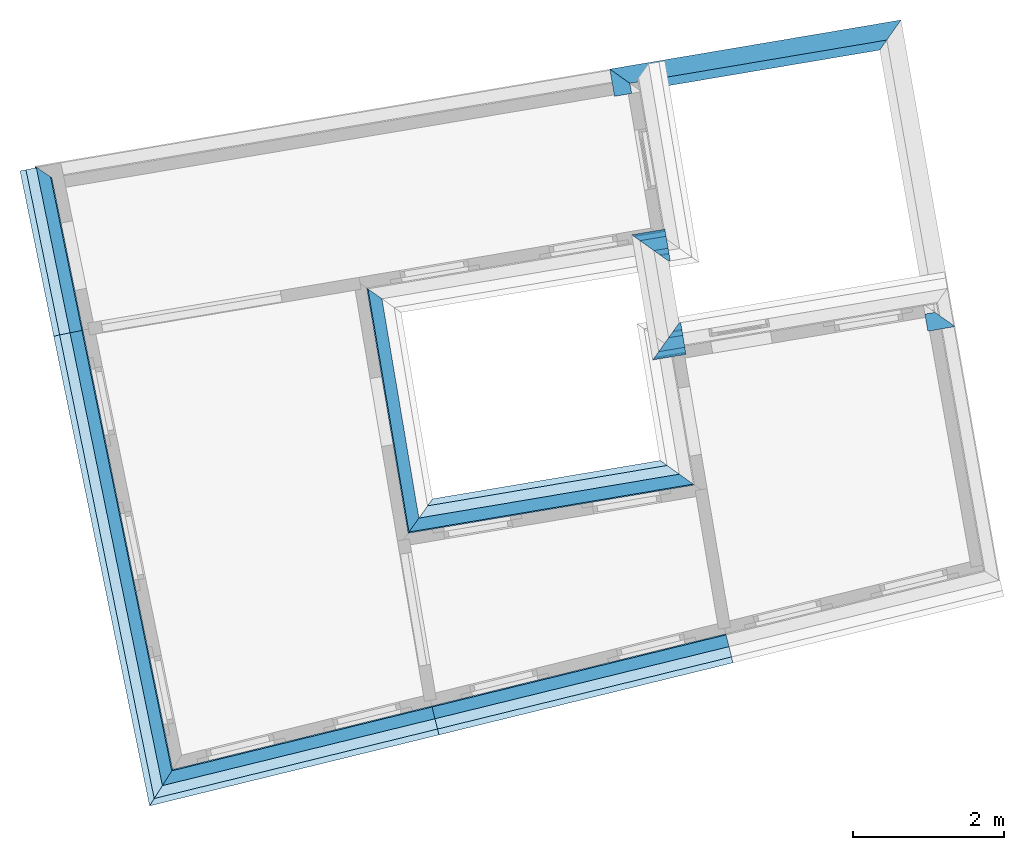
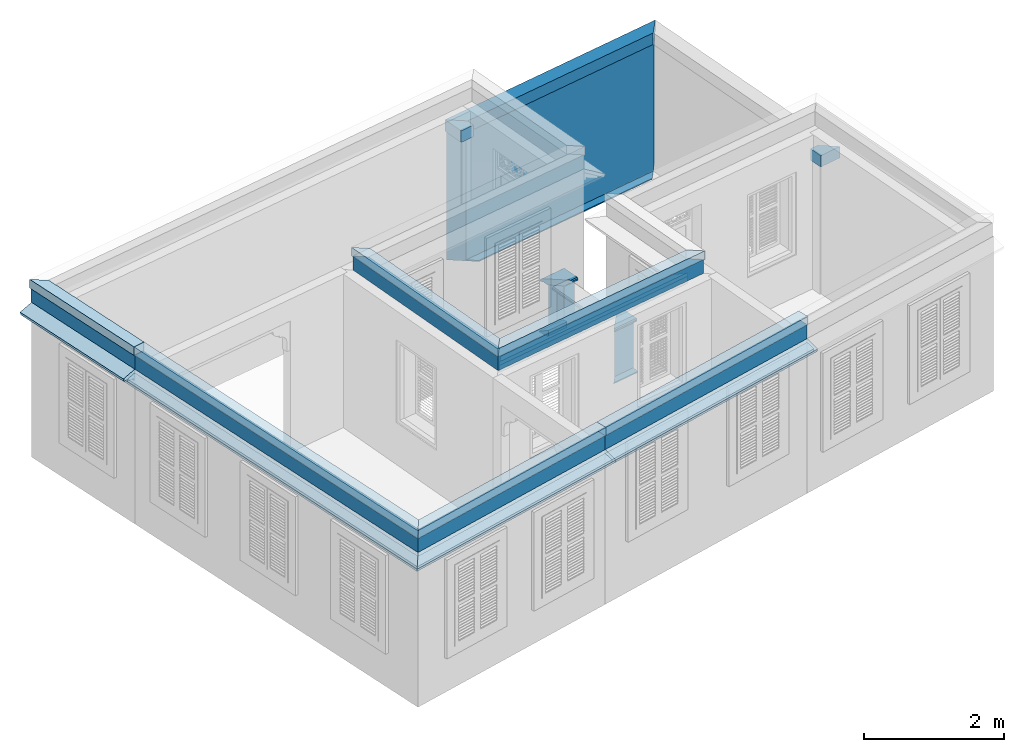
# One storey, part 10 of 12: 22 roofs, 10 walls.
"""IFC4 building model written with IfcOpenShell, lengths in metres."""

from ifc_helpers import new_model, si_unit, frame, origin_with_axes, place, context, subcontext, project, spatial, polyline, outline, extrude, clip, halfspace, material_profile, profile_set, profile_usage, type_object, element, save


model = new_model("IFC4")

# Units and contexts
model_context = context("Model", 3, world=origin_with_axes())
body_context = subcontext(model_context, "Body", "Model", "MODEL_VIEW")
ifc_project = project(units=[si_unit("PLANEANGLEUNIT", "RADIAN"), si_unit("MASSUNIT", "GRAM", prefix="KILO"), si_unit("FORCEUNIT", "NEWTON", prefix="KILO"), si_unit("LENGTHUNIT", "METRE"), si_unit("AREAUNIT", "SQUARE_METRE"), si_unit("VOLUMEUNIT", "CUBIC_METRE")], contexts=[model_context, model_context])

# Site, building, storey
site_placement = place(None, origin_with_axes())
site = spatial("IfcSite", under=ifc_project, at=site_placement, Name="Site plot-6", CompositionType="ELEMENT")
building_placement = place(None, origin_with_axes())
building = spatial("IfcBuilding", under=site, at=building_placement, Name="Building plot-6", CompositionType="ELEMENT")
storey_placement = place(None, frame((0.0, 0.0, 3.6), z_axis=(0.0, 0.0, 1.0), x_axis=(1.0, 0.0, 0.0)))
storey = spatial("IfcBuildingStorey", under=building, at=storey_placement, Name="plot-6 1", CompositionType="ELEMENT", Elevation=3.6)

# Walls
ifc_material_profile_1 = material_profile(None, outline(polyline([(0.25, 0.0), (0.25, 2.245), (0.05, 2.245), (0.05, 0.02), (-0.08, 0.02), (-0.08, 0.0), (0.25, 0.0)])))
ifc_profile_set_1 = profile_set([ifc_material_profile_1])
ifc_profile_usage_1 = profile_usage(ifc_profile_set_1)
wall_type_1 = type_object("IfcWallType", Name="parapet party_0", PredefinedType="PARAPET", material=ifc_profile_set_1)
wall_1_placement = place(storey_placement, frame((-4.32850095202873, 5.11031001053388, 0.0), z_axis=(0.986076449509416, 0.166292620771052, 0.0), x_axis=(-0.166292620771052, 0.986076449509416, 0.0)))
element("IfcWall", 1, at=wall_1_placement, inside=storey, type_object=wall_type_1, material=ifc_profile_usage_1, Name="parapet party_0", context=body_context, shape_type="Clipping", body=[
    clip(clip(extrude(outline(polyline([(0.25, 0.0), (0.25, 2.245), (0.05, 2.245), (0.05, 0.02), (-0.08, 0.02), (-0.08, 0.0), (0.25, 0.0)])), origin_with_axes(), (0.0, 0.0, 1.0), 5.37134361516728), halfspace(frame((0.0, 0.0, 4.37134361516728), z_axis=(0.704331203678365, 0.0, -0.709871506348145), x_axis=(0.0, 1.0, 0.0)), True)), halfspace(frame((0.0, 0.0, 1.0), z_axis=(-0.707106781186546, 0.0, -0.707106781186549), x_axis=(0.0, 1.0, 0.0)), False)),
])
ifc_material_profile_2 = material_profile(None, outline(polyline([(0.265, 2.245), (0.265, 2.445), (0.035, 2.445), (0.035, 2.245), (0.265, 2.245)])))
ifc_profile_set_2 = profile_set([ifc_material_profile_2])
ifc_profile_usage_2 = profile_usage(ifc_profile_set_2)
wall_type_2 = type_object("IfcWallType", Name="parapet party_1", PredefinedType="PARAPET", material=ifc_profile_set_2)
wall_2_placement = place(storey_placement, frame((1.59015010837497, 2.48325971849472, 0.0), z_axis=(-0.984743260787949, -0.174013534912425, 0.0), x_axis=(0.174013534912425, -0.984743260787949, 0.0)))
element("IfcWall", 2, at=wall_2_placement, inside=storey, type_object=wall_type_2, material=ifc_profile_usage_2, Name="parapet party_1", context=body_context, shape_type="Clipping", body=[
    clip(clip(extrude(outline(polyline([(0.265, 2.245), (0.265, 2.445), (0.035, 2.445), (0.035, 2.245), (0.265, 2.245)])), origin_with_axes(), (0.0, 0.0, 1.0), 2.1), halfspace(frame((0.0, 0.0, 1.1), z_axis=(-6.12323399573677e-17, 0.0, -1.0), x_axis=(0.0, 1.0, 0.0)), True)), halfspace(frame((0.0, 0.0, 1.0), z_axis=(-0.707106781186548, 0.0, -0.707106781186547), x_axis=(0.0, 1.0, 0.0)), False)),
])
ifc_profile_usage_3 = profile_usage(ifc_profile_set_2)
wall_3_placement = place(storey_placement, frame((-4.32850095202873, 5.11031001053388, 0.0), z_axis=(0.986076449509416, 0.166292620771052, 0.0), x_axis=(-0.166292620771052, 0.986076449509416, 0.0)))
element("IfcWall", 3, at=wall_3_placement, inside=storey, type_object=wall_type_2, material=ifc_profile_usage_3, Name="parapet party_1", context=body_context, shape_type="Clipping", body=[
    clip(clip(extrude(outline(polyline([(0.265, 2.245), (0.265, 2.445), (0.035, 2.445), (0.035, 2.245), (0.265, 2.245)])), origin_with_axes(), (0.0, 0.0, 1.0), 5.37134361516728), halfspace(frame((0.0, 0.0, 4.37134361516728), z_axis=(0.704331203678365, 0.0, -0.709871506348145), x_axis=(0.0, 1.0, 0.0)), True)), halfspace(frame((0.0, 0.0, 1.0), z_axis=(-0.707106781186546, 0.0, -0.707106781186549), x_axis=(0.0, 1.0, 0.0)), False)),
])
ifc_profile_usage_4 = profile_usage(ifc_profile_set_2)
wall_4_placement = place(storey_placement, frame((-3.15950261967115, 4.19191853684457, 0.0), z_axis=(-0.166292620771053, 0.986076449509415, 0.0), x_axis=(-0.986076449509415, -0.166292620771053, 0.0)))
element("IfcWall", 4, at=wall_4_placement, inside=storey, type_object=wall_type_2, material=ifc_profile_usage_4, Name="parapet party_1", context=body_context, shape_type="Clipping", body=[
    clip(clip(extrude(outline(polyline([(0.265, 2.245), (0.265, 2.445), (0.035, 2.445), (0.035, 2.245), (0.265, 2.245)])), origin_with_axes(), (0.0, 0.0, 1.0), 2.1), halfspace(frame((0.0, 0.0, 1.1), z_axis=(0.707106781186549, 0.0, -0.707106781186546), x_axis=(0.0, 1.0, 0.0)), True)), halfspace(frame((0.0, 0.0, 1.0), z_axis=(3.82856869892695e-16, 0.0, -1.0), x_axis=(0.0, 1.0, 0.0)), False)),
])
ifc_material_profile_3 = material_profile(None, outline(polyline([(0.25, 0.0), (0.25, 0.795), (0.09, 0.795), (0.09, 0.02), (-0.08, 0.02), (-0.08, 0.0), (0.25, 0.0)])))
ifc_profile_set_3 = profile_set([ifc_material_profile_3])
ifc_profile_usage_5 = profile_usage(ifc_profile_set_3)
wall_type_3 = type_object("IfcWallType", Name="parapet internal_0", PredefinedType="PARAPET", material=ifc_profile_set_3)
wall_5_placement = place(storey_placement, frame((-3.94838939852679, 2.85633716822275, 0.0), z_axis=(0.986076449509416, 0.166292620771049, 0.0), x_axis=(-0.166292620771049, 0.986076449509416, 0.0)))
element("IfcWall", 5, at=wall_5_placement, inside=storey, type_object=wall_type_3, material=ifc_profile_usage_5, Name="parapet internal_0", context=body_context, shape_type="Clipping", body=[
    clip(clip(extrude(outline(polyline([(0.25, 0.0), (0.25, 0.795), (0.09, 0.795), (0.09, 0.02), (-0.08, 0.02), (-0.08, 0.0), (0.25, 0.0)])), origin_with_axes(), (0.0, 0.0, 1.0), 2.1), halfspace(frame((0.0, 0.0, 1.1), z_axis=(-6.12323399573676e-17, 0.0, -1.0), x_axis=(0.0, 1.0, 0.0)), True)), halfspace(frame((0.0, 0.0, 1.0), z_axis=(-0.707106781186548, 0.0, -0.707106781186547), x_axis=(0.0, 1.0, 0.0)), False)),
])
ifc_profile_usage_6 = profile_usage(ifc_profile_set_3)
wall_6_placement = place(storey_placement, frame((-1.71354189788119, 2.2325542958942, 0.0), z_axis=(-0.986076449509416, -0.166292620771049, 0.0), x_axis=(0.166292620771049, -0.986076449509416, 0.0)))
element("IfcWall", 6, at=wall_6_placement, inside=storey, type_object=wall_type_3, material=ifc_profile_usage_6, Name="parapet internal_0", context=body_context, shape_type="Clipping", body=[
    clip(clip(extrude(outline(polyline([(0.25, 0.0), (0.25, 0.795), (0.09, 0.795), (0.09, 0.02), (-0.08, 0.02), (-0.08, 0.0), (0.25, 0.0)])), origin_with_axes(), (0.0, 0.0, 1.0), 2.1), halfspace(frame((0.0, 0.0, 1.1), z_axis=(0.707106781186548, 0.0, -0.707106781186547), x_axis=(0.0, 1.0, 0.0)), True)), halfspace(frame((0.0, 0.0, 1.0), z_axis=(-6.12323399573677e-17, 0.0, -1.0), x_axis=(0.0, 1.0, 0.0)), False)),
])
ifc_material_profile_4 = material_profile(None, outline(polyline([(0.265, 0.795), (0.268, 0.807), (0.274, 0.816), (0.283, 0.822), (0.295, 0.825), (0.295, 0.84), (0.305, 0.84), (0.317, 0.842), (0.326, 0.849), (0.333, 0.858), (0.335, 0.87), (0.333, 0.882), (0.326, 0.891), (0.317, 0.898), (0.305, 0.9), (0.035, 0.9), (0.023, 0.898), (0.014, 0.891), (0.007, 0.882), (0.005, 0.87), (0.007, 0.858), (0.014, 0.849), (0.023, 0.842), (0.035, 0.84), (0.045, 0.84), (0.045, 0.825), (0.057, 0.822), (0.066, 0.816), (0.072, 0.807), (0.075, 0.795), (0.265, 0.795)])))
ifc_profile_set_4 = profile_set([ifc_material_profile_4])
ifc_profile_usage_7 = profile_usage(ifc_profile_set_4)
wall_type_4 = type_object("IfcWallType", Name="parapet internal_1", PredefinedType="PARAPET", material=ifc_profile_set_4)
wall_7_placement = place(storey_placement, frame((-3.94838939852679, 2.85633716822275, 0.0), z_axis=(0.986076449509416, 0.166292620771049, 0.0), x_axis=(-0.166292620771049, 0.986076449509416, 0.0)))
element("IfcWall", 7, at=wall_7_placement, inside=storey, type_object=wall_type_4, material=ifc_profile_usage_7, Name="parapet internal_1", context=body_context, shape_type="Clipping", body=[
    clip(clip(extrude(outline(polyline([(0.265, 0.795), (0.268, 0.807), (0.274, 0.816), (0.283, 0.822), (0.295, 0.825), (0.295, 0.84), (0.305, 0.84), (0.317, 0.842), (0.326, 0.849), (0.333, 0.858), (0.335, 0.87), (0.333, 0.882), (0.326, 0.891), (0.317, 0.898), (0.305, 0.9), (0.035, 0.9), (0.023, 0.898), (0.014, 0.891), (0.007, 0.882), (0.005, 0.87), (0.007, 0.858), (0.014, 0.849), (0.023, 0.842), (0.035, 0.84), (0.045, 0.84), (0.045, 0.825), (0.057, 0.822), (0.066, 0.816), (0.072, 0.807), (0.075, 0.795), (0.265, 0.795)])), origin_with_axes(), (0.0, 0.0, 1.0), 2.1), halfspace(frame((0.0, 0.0, 1.1), z_axis=(-6.12323399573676e-17, 0.0, -1.0), x_axis=(0.0, 1.0, 0.0)), True)), halfspace(frame((0.0, 0.0, 1.0), z_axis=(-0.707106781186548, 0.0, -0.707106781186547), x_axis=(0.0, 1.0, 0.0)), False)),
])
ifc_profile_usage_8 = profile_usage(ifc_profile_set_4)
wall_8_placement = place(storey_placement, frame((-1.71354189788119, 2.2325542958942, 0.0), z_axis=(-0.986076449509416, -0.166292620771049, 0.0), x_axis=(0.166292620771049, -0.986076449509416, 0.0)))
element("IfcWall", 8, at=wall_8_placement, inside=storey, type_object=wall_type_4, material=ifc_profile_usage_8, Name="parapet internal_1", context=body_context, shape_type="Clipping", body=[
    clip(clip(extrude(outline(polyline([(0.265, 0.795), (0.268, 0.807), (0.274, 0.816), (0.283, 0.822), (0.295, 0.825), (0.295, 0.84), (0.305, 0.84), (0.317, 0.842), (0.326, 0.849), (0.333, 0.858), (0.335, 0.87), (0.333, 0.882), (0.326, 0.891), (0.317, 0.898), (0.305, 0.9), (0.035, 0.9), (0.023, 0.898), (0.014, 0.891), (0.007, 0.882), (0.005, 0.87), (0.007, 0.858), (0.014, 0.849), (0.023, 0.842), (0.035, 0.84), (0.045, 0.84), (0.045, 0.825), (0.057, 0.822), (0.066, 0.816), (0.072, 0.807), (0.075, 0.795), (0.265, 0.795)])), origin_with_axes(), (0.0, 0.0, 1.0), 2.1), halfspace(frame((0.0, 0.0, 1.1), z_axis=(0.707106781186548, 0.0, -0.707106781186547), x_axis=(0.0, 1.0, 0.0)), True)), halfspace(frame((0.0, 0.0, 1.0), z_axis=(-6.12323399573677e-17, 0.0, -1.0), x_axis=(0.0, 1.0, 0.0)), False)),
])
ifc_material_profile_5 = material_profile(None, outline(polyline([(0.25, -0.1), (0.265, -0.1), (0.265, -0.085), (0.278, -0.084), (0.289, -0.081), (0.301, -0.074), (0.309, -0.065), (0.315, -0.055), (0.324, -0.044), (0.334, -0.038), (0.345, -0.035), (0.345, -0.015), (0.25, 0.0), (0.25, -0.1)])))
ifc_profile_set_5 = profile_set([ifc_material_profile_5])
ifc_profile_usage_9 = profile_usage(ifc_profile_set_5)
wall_type_5 = type_object("IfcWallType", Name="parapet internal_2", PredefinedType="PARAPET", material=ifc_profile_set_5)
wall_9_placement = place(storey_placement, frame((-3.94838939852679, 2.85633716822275, 0.0), z_axis=(0.986076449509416, 0.166292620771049, 0.0), x_axis=(-0.166292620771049, 0.986076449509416, 0.0)))
element("IfcWall", 9, at=wall_9_placement, inside=storey, type_object=wall_type_5, material=ifc_profile_usage_9, Name="parapet internal_2", context=body_context, shape_type="Clipping", body=[
    clip(clip(extrude(outline(polyline([(0.25, -0.1), (0.265, -0.1), (0.265, -0.085), (0.278, -0.084), (0.289, -0.081), (0.301, -0.074), (0.309, -0.065), (0.315, -0.055), (0.324, -0.044), (0.334, -0.038), (0.345, -0.035), (0.345, -0.015), (0.25, 0.0), (0.25, -0.1)])), origin_with_axes(), (0.0, 0.0, 1.0), 2.1), halfspace(frame((0.0, 0.0, 1.1), z_axis=(-6.12323399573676e-17, 0.0, -1.0), x_axis=(0.0, 1.0, 0.0)), True)), halfspace(frame((0.0, 0.0, 1.0), z_axis=(-0.707106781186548, 0.0, -0.707106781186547), x_axis=(0.0, 1.0, 0.0)), False)),
])
ifc_profile_usage_10 = profile_usage(ifc_profile_set_5)
wall_10_placement = place(storey_placement, frame((-1.71354189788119, 2.2325542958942, 0.0), z_axis=(-0.986076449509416, -0.166292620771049, 0.0), x_axis=(0.166292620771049, -0.986076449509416, 0.0)))
element("IfcWall", 10, at=wall_10_placement, inside=storey, type_object=wall_type_5, material=ifc_profile_usage_10, Name="parapet internal_2", context=body_context, shape_type="Clipping", body=[
    clip(clip(extrude(outline(polyline([(0.25, -0.1), (0.265, -0.1), (0.265, -0.085), (0.278, -0.084), (0.289, -0.081), (0.301, -0.074), (0.309, -0.065), (0.315, -0.055), (0.324, -0.044), (0.334, -0.038), (0.345, -0.035), (0.345, -0.015), (0.25, 0.0), (0.25, -0.1)])), origin_with_axes(), (0.0, 0.0, 1.0), 2.1), halfspace(frame((0.0, 0.0, 1.1), z_axis=(0.707106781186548, 0.0, -0.707106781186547), x_axis=(0.0, 1.0, 0.0)), True)), halfspace(frame((0.0, 0.0, 1.0), z_axis=(-6.12323399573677e-17, 0.0, -1.0), x_axis=(0.0, 1.0, 0.0)), False)),
])

# Roofs
ifc_material_profile_6 = material_profile(None, outline(polyline([(0.25, 0.0), (0.25, 0.245), (0.09, 0.245), (0.09, 0.0), (0.25, 0.0)])))
ifc_profile_set_6 = profile_set([ifc_material_profile_6])
ifc_profile_usage_11 = profile_usage(ifc_profile_set_6)
roof_type_1 = type_object("IfcRoofType", Name="roofline_0", PredefinedType="FREEFORM", material=ifc_profile_set_6)
roof_1_placement = place(storey_placement, frame((-7.36088413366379, -0.890493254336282, 2.7), z_axis=(0.986076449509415, 0.166292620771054, 0.0), x_axis=(-0.166292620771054, 0.986076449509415, 0.0)))
element("IfcRoof", 11, at=roof_1_placement, inside=storey, type_object=roof_type_1, material=ifc_profile_usage_11, Name="roofline_0", context=body_context, shape_type="Clipping", body=[
    clip(clip(extrude(outline(polyline([(0.25, 0.0), (0.25, 0.245), (0.09, 0.245), (0.09, 0.0), (0.25, 0.0)])), origin_with_axes(), (0.0, 0.0, 1.0), 5.98805094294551), halfspace(frame((0.0, 0.0, 4.98805094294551), z_axis=(-0.707106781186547, 0.0, -0.707106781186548), x_axis=(0.0, 1.0, 0.0)), True)), halfspace(frame((0.0, 0.0, 1.0), z_axis=(0.707106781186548, 0.0, -0.707106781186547), x_axis=(0.0, 1.0, 0.0)), False)),
])
ifc_profile_usage_12 = profile_usage(ifc_profile_set_6)
roof_2_placement = place(storey_placement, frame((-7.11267939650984, 3.65120649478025, 2.7), z_axis=(0.166292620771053, -0.986076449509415, 0.0), x_axis=(0.986076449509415, 0.166292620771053, 0.0)))
element("IfcRoof", 12, at=roof_2_placement, inside=storey, type_object=roof_type_1, material=ifc_profile_usage_12, Name="roofline_0", context=body_context, shape_type="Clipping", body=[
    clip(clip(extrude(outline(polyline([(0.25, 0.0), (0.25, 0.245), (0.09, 0.245), (0.09, 0.0), (0.25, 0.0)])), origin_with_axes(), (0.0, 0.0, 1.0), 5.43718854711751), halfspace(frame((0.0, 0.0, 4.43718854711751), z_axis=(-0.707106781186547, 0.0, -0.707106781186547), x_axis=(0.0, 1.0, 0.0)), True)), halfspace(frame((0.0, 0.0, 1.0), z_axis=(0.707106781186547, 0.0, -0.707106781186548), x_axis=(0.0, 1.0, 0.0)), False)),
])
ifc_profile_usage_13 = profile_usage(ifc_profile_set_6)
roof_3_placement = place(storey_placement, frame((-10.3327694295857, 1.08052207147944, 2.7), z_axis=(-0.199943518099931, 0.979807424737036, 0.0), x_axis=(-0.979807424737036, -0.199943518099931, 0.0)))
element("IfcRoof", 13, at=roof_3_placement, inside=storey, type_object=roof_type_1, material=ifc_profile_usage_13, Name="roofline_0", context=body_context, shape_type="Clipping", body=[
    clip(clip(extrude(outline(polyline([(0.25, 0.0), (0.25, 0.245), (0.09, 0.245), (0.09, 0.0), (0.25, 0.0)])), origin_with_axes(), (0.0, 0.0, 1.0), 3.97695746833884), halfspace(frame((0.0, 0.0, 2.97695746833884), z_axis=(0.719105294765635, 0.0, -0.694901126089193), x_axis=(0.0, 1.0, 0.0)), True)), halfspace(frame((0.0, 0.0, 1.0), z_axis=(3.82856869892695e-16, 0.0, -1.0), x_axis=(0.0, 1.0, 0.0)), False)),
])
ifc_profile_usage_14 = profile_usage(ifc_profile_set_6)
roof_4_placement = place(storey_placement, frame((-9.16446570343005, -4.64465809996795, 2.7), z_axis=(-0.19994351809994, 0.979807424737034, 0.0), x_axis=(-0.979807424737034, -0.19994351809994, 0.0)))
element("IfcRoof", 14, at=roof_4_placement, inside=storey, type_object=roof_type_1, material=ifc_profile_usage_14, Name="roofline_0", context=body_context, shape_type="Clipping", body=[
    clip(clip(extrude(outline(polyline([(0.25, 0.0), (0.25, 0.245), (0.09, 0.245), (0.09, 0.0), (0.25, 0.0)])), origin_with_axes(), (0.0, 0.0, 1.0), 7.84316879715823), halfspace(frame((0.0, 0.0, 6.84316879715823), z_axis=(9.04259646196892e-15, 0.0, -1.0), x_axis=(0.0, 1.0, 0.0)), True)), halfspace(frame((0.0, 0.0, 1.0), z_axis=(-0.720836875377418, 0.0, -0.693104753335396), x_axis=(0.0, 1.0, 0.0)), False)),
])
ifc_profile_usage_15 = profile_usage(ifc_profile_set_6)
roof_5_placement = place(storey_placement, frame((-5.04612387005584, -2.60570499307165, 2.7), z_axis=(-0.971213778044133, -0.238209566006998, 0.0), x_axis=(0.238209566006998, -0.971213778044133, 0.0)))
element("IfcRoof", 15, at=roof_5_placement, inside=storey, type_object=roof_type_1, material=ifc_profile_usage_15, Name="roofline_0", context=body_context, shape_type="Clipping", body=[
    clip(clip(extrude(outline(polyline([(0.25, 0.0), (0.25, 0.245), (0.09, 0.245), (0.09, 0.0), (0.25, 0.0)])), origin_with_axes(), (0.0, 0.0, 1.0), 5.44627686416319), halfspace(frame((0.0, 0.0, 4.44627686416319), z_axis=(0.720836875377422, 0.0, -0.693104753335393), x_axis=(0.0, 1.0, 0.0)), True)), halfspace(frame((0.0, 0.0, 1.0), z_axis=(3.82856869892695e-16, 0.0, -1.0), x_axis=(0.0, 1.0, 0.0)), False)),
])
ifc_profile_usage_16 = profile_usage(ifc_profile_set_6)
roof_6_placement = place(storey_placement, frame((-1.16240149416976, -1.65314455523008, 2.7), z_axis=(-0.971213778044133, -0.238209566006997, 0.0), x_axis=(0.238209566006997, -0.971213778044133, 0.0)))
element("IfcRoof", 16, at=roof_6_placement, inside=storey, type_object=roof_type_1, material=ifc_profile_usage_16, Name="roofline_0", context=body_context, shape_type="Clipping", body=[
    clip(clip(extrude(outline(polyline([(0.25, 0.0), (0.25, 0.245), (0.09, 0.245), (0.09, 0.0), (0.25, 0.0)])), origin_with_axes(), (0.0, 0.0, 1.0), 5.99883369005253), halfspace(frame((0.0, 0.0, 4.99883369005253), z_axis=(-5.0532154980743e-16, 0.0, -1.0), x_axis=(0.0, 1.0, 0.0)), True)), halfspace(frame((0.0, 0.0, 1.0), z_axis=(1.60812264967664e-16, 0.0, -1.0), x_axis=(0.0, 1.0, 0.0)), False)),
])
ifc_material_profile_7 = material_profile(None, outline(polyline([(0.265, 0.245), (0.265, 0.395), (0.075, 0.395), (0.075, 0.245), (0.265, 0.245)])))
ifc_profile_set_7 = profile_set([ifc_material_profile_7])
ifc_profile_usage_17 = profile_usage(ifc_profile_set_7)
roof_type_2 = type_object("IfcRoofType", Name="roofline_1", PredefinedType="FREEFORM", material=ifc_profile_set_7)
roof_7_placement = place(storey_placement, frame((-7.36088413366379, -0.890493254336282, 2.7), z_axis=(0.986076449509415, 0.166292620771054, 0.0), x_axis=(-0.166292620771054, 0.986076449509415, 0.0)))
element("IfcRoof", 17, at=roof_7_placement, inside=storey, type_object=roof_type_2, material=ifc_profile_usage_17, Name="roofline_1", context=body_context, shape_type="Clipping", body=[
    clip(clip(extrude(outline(polyline([(0.265, 0.245), (0.265, 0.395), (0.075, 0.395), (0.075, 0.245), (0.265, 0.245)])), origin_with_axes(), (0.0, 0.0, 1.0), 5.98805094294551), halfspace(frame((0.0, 0.0, 4.98805094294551), z_axis=(-0.707106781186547, 0.0, -0.707106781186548), x_axis=(0.0, 1.0, 0.0)), True)), halfspace(frame((0.0, 0.0, 1.0), z_axis=(0.707106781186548, 0.0, -0.707106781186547), x_axis=(0.0, 1.0, 0.0)), False)),
])
ifc_profile_usage_18 = profile_usage(ifc_profile_set_7)
roof_8_placement = place(storey_placement, frame((-7.11267939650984, 3.65120649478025, 2.7), z_axis=(0.166292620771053, -0.986076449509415, 0.0), x_axis=(0.986076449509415, 0.166292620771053, 0.0)))
element("IfcRoof", 18, at=roof_8_placement, inside=storey, type_object=roof_type_2, material=ifc_profile_usage_18, Name="roofline_1", context=body_context, shape_type="Clipping", body=[
    clip(clip(extrude(outline(polyline([(0.265, 0.245), (0.265, 0.395), (0.075, 0.395), (0.075, 0.245), (0.265, 0.245)])), origin_with_axes(), (0.0, 0.0, 1.0), 5.43718854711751), halfspace(frame((0.0, 0.0, 4.43718854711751), z_axis=(-0.707106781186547, 0.0, -0.707106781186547), x_axis=(0.0, 1.0, 0.0)), True)), halfspace(frame((0.0, 0.0, 1.0), z_axis=(0.707106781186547, 0.0, -0.707106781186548), x_axis=(0.0, 1.0, 0.0)), False)),
])
ifc_profile_usage_19 = profile_usage(ifc_profile_set_7)
roof_9_placement = place(storey_placement, frame((-10.3327694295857, 1.08052207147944, 2.7), z_axis=(-0.199943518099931, 0.979807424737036, 0.0), x_axis=(-0.979807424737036, -0.199943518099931, 0.0)))
element("IfcRoof", 19, at=roof_9_placement, inside=storey, type_object=roof_type_2, material=ifc_profile_usage_19, Name="roofline_1", context=body_context, shape_type="Clipping", body=[
    clip(clip(extrude(outline(polyline([(0.265, 0.245), (0.265, 0.395), (0.075, 0.395), (0.075, 0.245), (0.265, 0.245)])), origin_with_axes(), (0.0, 0.0, 1.0), 3.97695746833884), halfspace(frame((0.0, 0.0, 2.97695746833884), z_axis=(0.719105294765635, 0.0, -0.694901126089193), x_axis=(0.0, 1.0, 0.0)), True)), halfspace(frame((0.0, 0.0, 1.0), z_axis=(3.82856869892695e-16, 0.0, -1.0), x_axis=(0.0, 1.0, 0.0)), False)),
])
ifc_profile_usage_20 = profile_usage(ifc_profile_set_7)
roof_10_placement = place(storey_placement, frame((-9.16446570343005, -4.64465809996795, 2.7), z_axis=(-0.19994351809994, 0.979807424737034, 0.0), x_axis=(-0.979807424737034, -0.19994351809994, 0.0)))
element("IfcRoof", 20, at=roof_10_placement, inside=storey, type_object=roof_type_2, material=ifc_profile_usage_20, Name="roofline_1", context=body_context, shape_type="Clipping", body=[
    clip(clip(extrude(outline(polyline([(0.265, 0.245), (0.265, 0.395), (0.075, 0.395), (0.075, 0.245), (0.265, 0.245)])), origin_with_axes(), (0.0, 0.0, 1.0), 7.84316879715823), halfspace(frame((0.0, 0.0, 6.84316879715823), z_axis=(9.04259646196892e-15, 0.0, -1.0), x_axis=(0.0, 1.0, 0.0)), True)), halfspace(frame((0.0, 0.0, 1.0), z_axis=(-0.720836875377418, 0.0, -0.693104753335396), x_axis=(0.0, 1.0, 0.0)), False)),
])
ifc_profile_usage_21 = profile_usage(ifc_profile_set_7)
roof_11_placement = place(storey_placement, frame((-5.04612387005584, -2.60570499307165, 2.7), z_axis=(-0.971213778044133, -0.238209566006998, 0.0), x_axis=(0.238209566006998, -0.971213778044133, 0.0)))
element("IfcRoof", 21, at=roof_11_placement, inside=storey, type_object=roof_type_2, material=ifc_profile_usage_21, Name="roofline_1", context=body_context, shape_type="Clipping", body=[
    clip(clip(extrude(outline(polyline([(0.265, 0.245), (0.265, 0.395), (0.075, 0.395), (0.075, 0.245), (0.265, 0.245)])), origin_with_axes(), (0.0, 0.0, 1.0), 5.44627686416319), halfspace(frame((0.0, 0.0, 4.44627686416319), z_axis=(0.720836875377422, 0.0, -0.693104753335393), x_axis=(0.0, 1.0, 0.0)), True)), halfspace(frame((0.0, 0.0, 1.0), z_axis=(3.82856869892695e-16, 0.0, -1.0), x_axis=(0.0, 1.0, 0.0)), False)),
])
ifc_profile_usage_22 = profile_usage(ifc_profile_set_7)
roof_12_placement = place(storey_placement, frame((-1.16240149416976, -1.65314455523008, 2.7), z_axis=(-0.971213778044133, -0.238209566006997, 0.0), x_axis=(0.238209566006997, -0.971213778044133, 0.0)))
element("IfcRoof", 22, at=roof_12_placement, inside=storey, type_object=roof_type_2, material=ifc_profile_usage_22, Name="roofline_1", context=body_context, shape_type="Clipping", body=[
    clip(clip(extrude(outline(polyline([(0.265, 0.245), (0.265, 0.395), (0.075, 0.395), (0.075, 0.245), (0.265, 0.245)])), origin_with_axes(), (0.0, 0.0, 1.0), 5.99883369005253), halfspace(frame((0.0, 0.0, 4.99883369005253), z_axis=(-5.0532154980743e-16, 0.0, -1.0), x_axis=(0.0, 1.0, 0.0)), True)), halfspace(frame((0.0, 0.0, 1.0), z_axis=(1.60812264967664e-16, 0.0, -1.0), x_axis=(0.0, 1.0, 0.0)), False)),
])
ifc_material_profile_8 = material_profile(None, outline(polyline([(0.25, -0.19), (0.275, -0.19), (0.275, -0.15), (0.39, -0.15), (0.39, -0.107509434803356), (0.25, -0.0629639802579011), (0.25, -0.19)])))
ifc_profile_set_8 = profile_set([ifc_material_profile_8])
ifc_profile_usage_23 = profile_usage(ifc_profile_set_8)
roof_type_3 = type_object("IfcRoofType", Name="eaves_0", PredefinedType="FREEFORM", material=ifc_profile_set_8)
roof_13_placement = place(storey_placement, frame((-7.36088413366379, -0.890493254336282, 2.7), z_axis=(0.986076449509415, 0.166292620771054, 0.0), x_axis=(-0.166292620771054, 0.986076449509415, 0.0)))
element("IfcRoof", 23, at=roof_13_placement, inside=storey, type_object=roof_type_3, material=ifc_profile_usage_23, Name="eaves_0", context=body_context, shape_type="Clipping", body=[
    clip(clip(extrude(outline(polyline([(0.25, -0.19), (0.275, -0.19), (0.275, -0.15), (0.39, -0.15), (0.39, -0.107509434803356), (0.25, -0.0629639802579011), (0.25, -0.19)])), origin_with_axes(), (0.0, 0.0, 1.0), 5.98805094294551), halfspace(frame((0.0, 0.0, 4.98805094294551), z_axis=(-0.707106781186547, 0.0, -0.707106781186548), x_axis=(0.0, 1.0, 0.0)), True)), halfspace(frame((0.0, 0.0, 1.0), z_axis=(0.707106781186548, 0.0, -0.707106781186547), x_axis=(0.0, 1.0, 0.0)), False)),
])
ifc_material_profile_9 = material_profile(None, outline(polyline([(0.25, -0.0629639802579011), (0.451807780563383, -0.127175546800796), (0.47, -0.07), (0.25, 0.0), (0.25, -0.0629639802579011)])))
ifc_profile_set_9 = profile_set([ifc_material_profile_9])
ifc_profile_usage_24 = profile_usage(ifc_profile_set_9)
roof_type_4 = type_object("IfcRoofType", Name="eaves_1", PredefinedType="FREEFORM", material=ifc_profile_set_9)
roof_14_placement = place(storey_placement, frame((-7.36088413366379, -0.890493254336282, 2.7), z_axis=(0.986076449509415, 0.166292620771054, 0.0), x_axis=(-0.166292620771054, 0.986076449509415, 0.0)))
element("IfcRoof", 24, at=roof_14_placement, inside=storey, type_object=roof_type_4, material=ifc_profile_usage_24, Name="eaves_1", context=body_context, shape_type="Clipping", body=[
    clip(clip(extrude(outline(polyline([(0.25, -0.0629639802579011), (0.451807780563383, -0.127175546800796), (0.47, -0.07), (0.25, 0.0), (0.25, -0.0629639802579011)])), origin_with_axes(), (0.0, 0.0, 1.0), 5.98805094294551), halfspace(frame((0.0, 0.0, 4.98805094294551), z_axis=(-0.707106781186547, 0.0, -0.707106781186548), x_axis=(0.0, 1.0, 0.0)), True)), halfspace(frame((0.0, 0.0, 1.0), z_axis=(0.707106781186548, 0.0, -0.707106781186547), x_axis=(0.0, 1.0, 0.0)), False)),
])
ifc_material_profile_10 = material_profile(None, outline(polyline([(0.25, -0.19), (0.275, -0.19), (0.275, -0.15), (0.39, -0.15), (0.39, -0.107509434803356), (0.25, -0.0629639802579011), (0.25, -0.19)])))
ifc_profile_set_10 = profile_set([ifc_material_profile_10])
ifc_profile_usage_25 = profile_usage(ifc_profile_set_10)
roof_type_5 = type_object("IfcRoofType", Name="eaves_0", PredefinedType="FREEFORM", material=ifc_profile_set_10)
roof_15_placement = place(storey_placement, frame((-10.3327694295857, 1.08052207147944, 2.7), z_axis=(-0.199943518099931, 0.979807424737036, 0.0), x_axis=(-0.979807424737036, -0.199943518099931, 0.0)))
element("IfcRoof", 25, at=roof_15_placement, inside=storey, type_object=roof_type_5, material=ifc_profile_usage_25, Name="eaves_0", context=body_context, shape_type="Clipping", body=[
    clip(clip(extrude(outline(polyline([(0.25, -0.19), (0.275, -0.19), (0.275, -0.15), (0.39, -0.15), (0.39, -0.107509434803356), (0.25, -0.0629639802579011), (0.25, -0.19)])), origin_with_axes(), (0.0, 0.0, 1.0), 4.22695746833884), halfspace(frame((0.0, 0.0, 3.22695746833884), z_axis=(-6.12323399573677e-17, 0.0, -1.0), x_axis=(0.0, 1.0, 0.0)), True)), halfspace(frame((0.0, 0.0, 1.0), z_axis=(-6.12323399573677e-17, 0.0, -1.0), x_axis=(0.0, 1.0, 0.0)), False)),
])
ifc_profile_usage_26 = profile_usage(ifc_profile_set_10)
roof_16_placement = place(storey_placement, frame((-9.16446570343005, -4.64465809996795, 2.7), z_axis=(-0.19994351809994, 0.979807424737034, 0.0), x_axis=(-0.979807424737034, -0.19994351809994, 0.0)))
element("IfcRoof", 26, at=roof_16_placement, inside=storey, type_object=roof_type_5, material=ifc_profile_usage_26, Name="eaves_0", context=body_context, shape_type="Clipping", body=[
    clip(clip(extrude(outline(polyline([(0.25, -0.19), (0.275, -0.19), (0.275, -0.15), (0.39, -0.15), (0.39, -0.107509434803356), (0.25, -0.0629639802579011), (0.25, -0.19)])), origin_with_axes(), (0.0, 0.0, 1.0), 7.84316879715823), halfspace(frame((0.0, 0.0, 6.84316879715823), z_axis=(9.04259646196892e-15, 0.0, -1.0), x_axis=(0.0, 1.0, 0.0)), True)), halfspace(frame((0.0, 0.0, 1.0), z_axis=(-0.720836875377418, 0.0, -0.693104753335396), x_axis=(0.0, 1.0, 0.0)), False)),
])
ifc_profile_usage_27 = profile_usage(ifc_profile_set_10)
roof_17_placement = place(storey_placement, frame((-5.04612387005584, -2.60570499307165, 2.7), z_axis=(-0.971213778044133, -0.238209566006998, 0.0), x_axis=(0.238209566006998, -0.971213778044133, 0.0)))
element("IfcRoof", 27, at=roof_17_placement, inside=storey, type_object=roof_type_5, material=ifc_profile_usage_27, Name="eaves_0", context=body_context, shape_type="Clipping", body=[
    clip(clip(extrude(outline(polyline([(0.25, -0.19), (0.275, -0.19), (0.275, -0.15), (0.39, -0.15), (0.39, -0.107509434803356), (0.25, -0.0629639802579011), (0.25, -0.19)])), origin_with_axes(), (0.0, 0.0, 1.0), 5.44627686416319), halfspace(frame((0.0, 0.0, 4.44627686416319), z_axis=(0.720836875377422, 0.0, -0.693104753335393), x_axis=(0.0, 1.0, 0.0)), True)), halfspace(frame((0.0, 0.0, 1.0), z_axis=(3.82856869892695e-16, 0.0, -1.0), x_axis=(0.0, 1.0, 0.0)), False)),
])
ifc_profile_usage_28 = profile_usage(ifc_profile_set_10)
roof_18_placement = place(storey_placement, frame((-1.16240149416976, -1.65314455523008, 2.7), z_axis=(-0.971213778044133, -0.238209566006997, 0.0), x_axis=(0.238209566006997, -0.971213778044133, 0.0)))
element("IfcRoof", 28, at=roof_18_placement, inside=storey, type_object=roof_type_5, material=ifc_profile_usage_28, Name="eaves_0", context=body_context, shape_type="Clipping", body=[
    clip(clip(extrude(outline(polyline([(0.25, -0.19), (0.275, -0.19), (0.275, -0.15), (0.39, -0.15), (0.39, -0.107509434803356), (0.25, -0.0629639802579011), (0.25, -0.19)])), origin_with_axes(), (0.0, 0.0, 1.0), 5.99883369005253), halfspace(frame((0.0, 0.0, 4.99883369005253), z_axis=(-5.0532154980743e-16, 0.0, -1.0), x_axis=(0.0, 1.0, 0.0)), True)), halfspace(frame((0.0, 0.0, 1.0), z_axis=(1.60812264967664e-16, 0.0, -1.0), x_axis=(0.0, 1.0, 0.0)), False)),
])
ifc_material_profile_11 = material_profile(None, outline(polyline([(0.25, -0.0629639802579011), (0.451807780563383, -0.127175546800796), (0.47, -0.07), (0.25, 0.0), (0.25, -0.0629639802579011)])))
ifc_profile_set_11 = profile_set([ifc_material_profile_11])
ifc_profile_usage_29 = profile_usage(ifc_profile_set_11)
roof_type_6 = type_object("IfcRoofType", Name="eaves_1", PredefinedType="FREEFORM", material=ifc_profile_set_11)
roof_19_placement = place(storey_placement, frame((-10.3327694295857, 1.08052207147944, 2.7), z_axis=(-0.199943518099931, 0.979807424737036, 0.0), x_axis=(-0.979807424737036, -0.199943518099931, 0.0)))
element("IfcRoof", 29, at=roof_19_placement, inside=storey, type_object=roof_type_6, material=ifc_profile_usage_29, Name="eaves_1", context=body_context, shape_type="Clipping", body=[
    clip(clip(extrude(outline(polyline([(0.25, -0.0629639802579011), (0.451807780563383, -0.127175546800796), (0.47, -0.07), (0.25, 0.0), (0.25, -0.0629639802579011)])), origin_with_axes(), (0.0, 0.0, 1.0), 4.22695746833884), halfspace(frame((0.0, 0.0, 3.22695746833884), z_axis=(-6.12323399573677e-17, 0.0, -1.0), x_axis=(0.0, 1.0, 0.0)), True)), halfspace(frame((0.0, 0.0, 1.0), z_axis=(-6.12323399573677e-17, 0.0, -1.0), x_axis=(0.0, 1.0, 0.0)), False)),
])
ifc_profile_usage_30 = profile_usage(ifc_profile_set_11)
roof_20_placement = place(storey_placement, frame((-9.16446570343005, -4.64465809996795, 2.7), z_axis=(-0.19994351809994, 0.979807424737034, 0.0), x_axis=(-0.979807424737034, -0.19994351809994, 0.0)))
element("IfcRoof", 30, at=roof_20_placement, inside=storey, type_object=roof_type_6, material=ifc_profile_usage_30, Name="eaves_1", context=body_context, shape_type="Clipping", body=[
    clip(clip(extrude(outline(polyline([(0.25, -0.0629639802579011), (0.451807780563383, -0.127175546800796), (0.47, -0.07), (0.25, 0.0), (0.25, -0.0629639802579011)])), origin_with_axes(), (0.0, 0.0, 1.0), 7.84316879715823), halfspace(frame((0.0, 0.0, 6.84316879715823), z_axis=(9.04259646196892e-15, 0.0, -1.0), x_axis=(0.0, 1.0, 0.0)), True)), halfspace(frame((0.0, 0.0, 1.0), z_axis=(-0.720836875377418, 0.0, -0.693104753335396), x_axis=(0.0, 1.0, 0.0)), False)),
])
ifc_profile_usage_31 = profile_usage(ifc_profile_set_11)
roof_21_placement = place(storey_placement, frame((-5.04612387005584, -2.60570499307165, 2.7), z_axis=(-0.971213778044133, -0.238209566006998, 0.0), x_axis=(0.238209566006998, -0.971213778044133, 0.0)))
element("IfcRoof", 31, at=roof_21_placement, inside=storey, type_object=roof_type_6, material=ifc_profile_usage_31, Name="eaves_1", context=body_context, shape_type="Clipping", body=[
    clip(clip(extrude(outline(polyline([(0.25, -0.0629639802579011), (0.451807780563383, -0.127175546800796), (0.47, -0.07), (0.25, 0.0), (0.25, -0.0629639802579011)])), origin_with_axes(), (0.0, 0.0, 1.0), 5.44627686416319), halfspace(frame((0.0, 0.0, 4.44627686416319), z_axis=(0.720836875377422, 0.0, -0.693104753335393), x_axis=(0.0, 1.0, 0.0)), True)), halfspace(frame((0.0, 0.0, 1.0), z_axis=(3.82856869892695e-16, 0.0, -1.0), x_axis=(0.0, 1.0, 0.0)), False)),
])
ifc_profile_usage_32 = profile_usage(ifc_profile_set_11)
roof_22_placement = place(storey_placement, frame((-1.16240149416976, -1.65314455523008, 2.7), z_axis=(-0.971213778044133, -0.238209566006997, 0.0), x_axis=(0.238209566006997, -0.971213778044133, 0.0)))
element("IfcRoof", 32, at=roof_22_placement, inside=storey, type_object=roof_type_6, material=ifc_profile_usage_32, Name="eaves_1", context=body_context, shape_type="Clipping", body=[
    clip(clip(extrude(outline(polyline([(0.25, -0.0629639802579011), (0.451807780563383, -0.127175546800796), (0.47, -0.07), (0.25, 0.0), (0.25, -0.0629639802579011)])), origin_with_axes(), (0.0, 0.0, 1.0), 5.99883369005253), halfspace(frame((0.0, 0.0, 4.99883369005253), z_axis=(-5.0532154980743e-16, 0.0, -1.0), x_axis=(0.0, 1.0, 0.0)), True)), halfspace(frame((0.0, 0.0, 1.0), z_axis=(1.60812264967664e-16, 0.0, -1.0), x_axis=(0.0, 1.0, 0.0)), False)),
])

save(model, "model.ifc")
